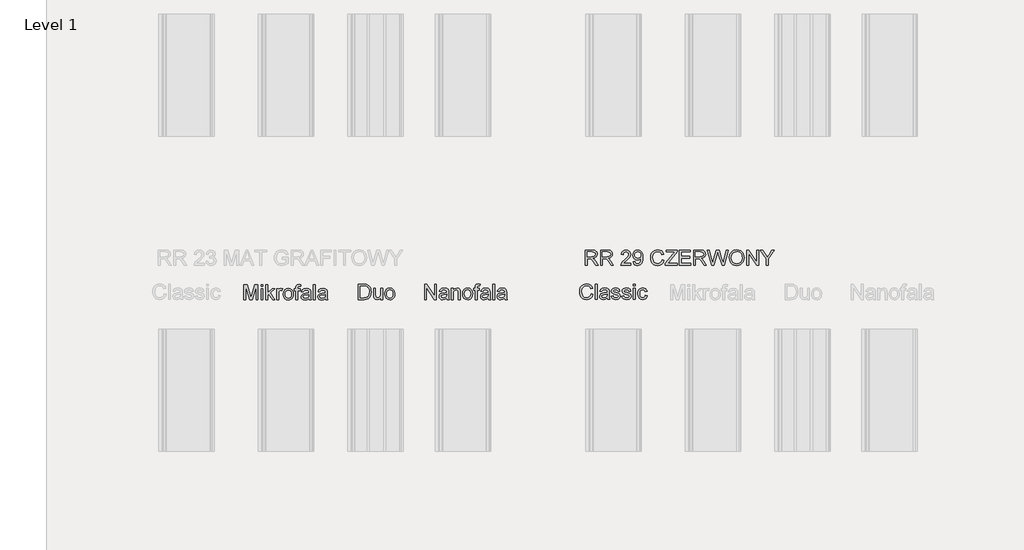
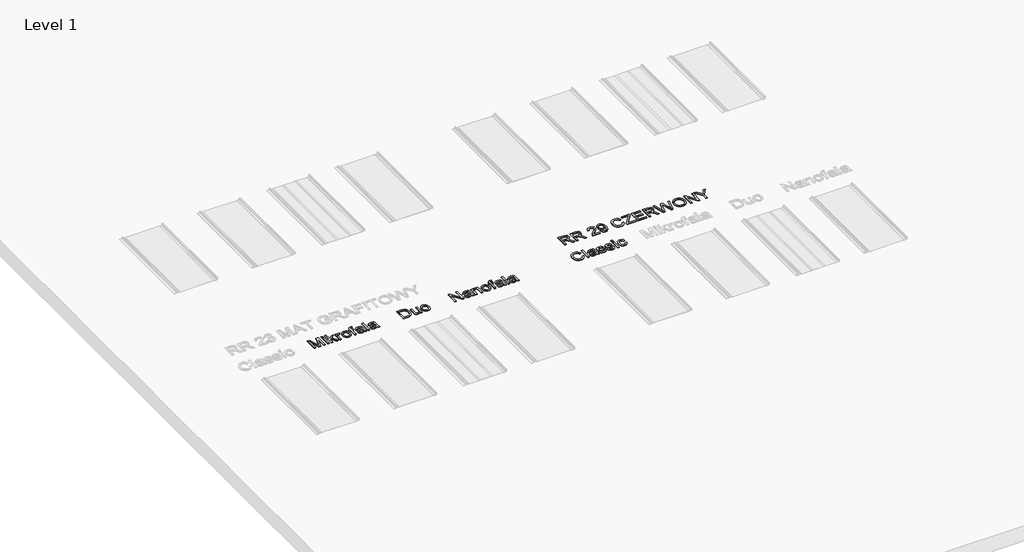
# One storey, part 10 of 22: 5 proxies.
"""IFC4 building model written with IfcOpenShell, lengths in millimetres."""

from ifc_helpers import new_model, si_unit, frame, origin, place, context, project, spatial, polyline, outline, extrude, element, save

model = new_model("IFC4")

# Units and contexts
model_context = context("Model", 3, world=origin())
ifc_project = project(units=[si_unit("LENGTHUNIT", "METRE", prefix="MILLI")], contexts=[model_context])

# Site, building, storey
site = spatial("IfcSite", under=ifc_project)
building = spatial("IfcBuilding", under=site)
storey = spatial("IfcBuildingStorey", under=building, Name="Level 1", Elevation=0.0)

# Proxies
placement = place(None, origin())
element("IfcBuildingElementProxy", 1, Name="150", ObjectType="150", at=placement, inside=storey, context=model_context, shape_type="SweptSolid", body=[
    extrude(outline(polyline([(-7895.6654959, -5075.281387), (-7895.6654959, -4924.5969218), (-7863.3654568, -4924.5969218), (-7832.4633692, -5030.8044538), (-7826.2093753, -5052.9877381), (-7819.4771347, -5028.9650438), (-7789.1636583, -4924.5969218), (-7756.7532546, -4924.5969218), (-7756.7532546, -5075.281387), (-7775.5888127, -5075.281387), (-7775.5888127, -4943.4324799), (-7813.44387, -5075.281387), (-7838.9380923, -5075.281387), (-7876.8299378, -4943.4324799), (-7876.8299378, -5075.281387), (-7895.6654959, -5075.281387)])), frame((0.0, 0.0, 600.0), z_axis=(0.0, 0.0, 1.0), x_axis=(1.0, 0.0, 0.0)), (0.0, 0.0, 1.0), 10.0),
    extrude(outline(polyline([(-7726.1454726, -4943.4324799), (-7726.1454726, -4924.5969218), (-7707.3099144, -4924.5969218), (-7707.3099144, -4943.4324799), (-7726.1454726, -4943.4324799)])), frame((0.0, 0.0, 600.0), z_axis=(0.0, 0.0, 1.0), x_axis=(1.0, 0.0, 0.0)), (0.0, 0.0, 1.0), 10.0),
    extrude(outline(polyline([(-7726.1454726, -5075.281387), (-7726.1454726, -4964.6224829), (-7707.3099144, -4964.6224829), (-7707.3099144, -5075.281387), (-7726.1454726, -5075.281387)])), frame((0.0, 0.0, 600.0), z_axis=(0.0, 0.0, 1.0), x_axis=(1.0, 0.0, 0.0)), (0.0, 0.0, 1.0), 10.0),
    extrude(outline(polyline([(-7679.0565772, -5075.281387), (-7679.0565772, -4924.5969218), (-7660.221019, -4924.5969218), (-7660.221019, -5005.5677489), (-7617.988166, -4964.6224829), (-7591.9421207, -4964.6224829), (-7634.7267968, -5006.0827837), (-7589.587676, -5075.281387), (-7611.5870193, -5075.281387), (-7648.228066, -5019.1793827), (-7660.221019, -5030.841242), (-7660.221019, -5075.281387), (-7679.0565772, -5075.281387)])), frame((0.0, 0.0, 600.0), z_axis=(0.0, 0.0, 1.0), x_axis=(1.0, 0.0, 0.0)), (0.0, 0.0, 1.0), 10.0),
    extrude(outline(polyline([(-7573.1065626, -5075.281387), (-7573.1065626, -4964.6224829), (-7556.6254492, -4964.6224829), (-7556.6254492, -4980.9932316), (-7544.9268017, -4965.9100698), (-7533.1545779, -4962.2680381), (-7514.2454433, -4968.0805736), (-7520.5362255, -4984.9663572), (-7533.7799773, -4981.1035962), (-7544.4301611, -4984.8192044), (-7551.2175839, -4995.1199003), (-7554.2710044, -5017.1192436), (-7554.2710044, -5075.281387), (-7573.1065626, -5075.281387)])), frame((0.0, 0.0, 600.0), z_axis=(0.0, 0.0, 1.0), x_axis=(1.0, 0.0, 0.0)), (0.0, 0.0, 1.0), 10.0),
    extrude(outline(polyline([(-7507.182109, -5019.9519349), (-7503.1078159, -4993.2712932), (-7490.8849367, -4974.5185085), (-7475.7833808, -4965.3306557), (-7457.7019807, -4962.2680381), (-7437.9145279, -4965.9974418), (-7422.1093977, -4977.185653), (-7411.748921, -4994.9497548), (-7408.2954287, -5018.4068306), (-7409.822139, -5037.4355268), (-7414.4022699, -5051.9208803), (-7421.902464, -5062.7688007), (-7432.1893643, -5070.8851972), (-7444.4076451, -5075.9481731), (-7457.7019807, -5077.6358318), (-7477.7285568, -5073.9202236), (-7493.5152929, -5062.7733992), (-7503.765405, -5044.6368168), (-7507.182109, -5019.9519349)]), holes=[polyline([(-7488.3465509, -5019.9151467), (-7486.1668501, -5036.9618787), (-7479.6277476, -5049.1065831), (-7469.7869042, -5056.376851), (-7457.7019807, -5058.8002736), (-7445.6722394, -5056.3630554), (-7435.8497902, -5049.0514008), (-7429.3106877, -5036.745748), (-7427.1309869, -5019.3265355), (-7429.3244833, -5002.7764443), (-7435.9049725, -4990.7972868), (-7445.7412173, -4983.5270189), (-7457.7019807, -4981.1035962), (-7469.7869042, -4983.5178218), (-7479.6277476, -4990.7604986), (-7486.1668501, -5002.8776118), (-7488.3465509, -5019.9151467)])]), frame((0.0, 0.0, 600.0), z_axis=(0.0, 0.0, 1.0), x_axis=(1.0, 0.0, 0.0)), (0.0, 0.0, 1.0), 10.0),
    extrude(outline(polyline([(-7382.3965363, -5075.281387), (-7382.3965363, -4983.458041), (-7398.8776497, -4983.458041), (-7398.8776497, -4964.6224829), (-7382.3965363, -4964.6224829), (-7382.3965363, -4953.4756584), (-7380.4099735, -4937.7670972), (-7370.7714652, -4926.5466964), (-7351.7887543, -4922.242477), (-7334.6086651, -4924.3026162), (-7337.3677801, -4941.960952), (-7348.2202989, -4941.0780352), (-7360.0844933, -4944.2050321), (-7363.5609781, -4955.8668914), (-7363.5609781, -4964.6224829), (-7342.3709752, -4964.6224829), (-7342.3709752, -4983.458041), (-7363.5609781, -4983.458041), (-7363.5609781, -5075.281387), (-7382.3965363, -5075.281387)])), frame((0.0, 0.0, 600.0), z_axis=(0.0, 0.0, 1.0), x_axis=(1.0, 0.0, 0.0)), (0.0, 0.0, 1.0), 10.0),
    extrude(outline(polyline([(-7255.2565187, -5061.1547184), (-7273.5218598, -5073.9202236), (-7293.7001872, -5077.6358318), (-7309.4409381, -5075.4009487), (-7321.0522136, -5068.6962993), (-7328.2121169, -5058.5151651), (-7330.5987514, -5045.8508274), (-7326.9935078, -5030.9516066), (-7317.5205464, -5020.1358759), (-7304.3319769, -5013.9554584), (-7288.0348045, -5011.1227671), (-7255.3668833, -5004.6480439), (-7255.2565187, -5000.4541892), (-7256.5533028, -4992.0480856), (-7260.4436549, -4986.5482498), (-7269.1440641, -4982.4647596), (-7281.2657758, -4981.1035962), (-7300.3220632, -4984.7272339), (-7309.4087484, -4997.5847096), (-7328.2443066, -4995.2302649), (-7320.0957204, -4976.8361651), (-7303.6881834, -4966.0572226), (-7278.8377546, -4962.2680381), (-7256.0106768, -4965.6157643), (-7243.1164129, -4974.0218678), (-7237.3406656, -4986.8057672), (-7236.4209606, -5003.2868806), (-7236.4209606, -5026.7209636), (-7235.4644674, -5059.4440671), (-7231.7120711, -5075.281387), (-7250.5476292, -5075.281387), (-7255.2565187, -5061.1547184)]), holes=[polyline([(-7255.2565187, -5023.4836021), (-7285.6435715, -5029.2593494), (-7301.8487734, -5032.31277), (-7309.1880192, -5037.2791769), (-7311.7631932, -5044.5264522), (-7306.1529928, -5054.7167835), (-7289.6902735, -5058.8002736), (-7270.6339861, -5054.2937192), (-7258.3467275, -5043.386018), (-7255.3668833, -5028.817891), (-7255.2565187, -5023.4836021)])]), frame((0.0, 0.0, 600.0), z_axis=(0.0, 0.0, 1.0), x_axis=(1.0, 0.0, 0.0)), (0.0, 0.0, 1.0), 10.0),
    extrude(outline(polyline([(-7210.5220681, -5075.281387), (-7210.5220681, -4924.5969218), (-7191.68651, -4924.5969218), (-7191.68651, -5075.281387), (-7210.5220681, -5075.281387)])), frame((0.0, 0.0, 600.0), z_axis=(0.0, 0.0, 1.0), x_axis=(1.0, 0.0, 0.0)), (0.0, 0.0, 1.0), 10.0),
    extrude(outline(polyline([(-7092.7998297, -5061.1547184), (-7111.0651707, -5073.9202236), (-7131.2434982, -5077.6358318), (-7146.984249, -5075.4009487), (-7158.5955245, -5068.6962993), (-7165.7554278, -5058.5151651), (-7168.1420623, -5045.8508274), (-7164.5368187, -5030.9516066), (-7155.0638574, -5020.1358759), (-7141.8752878, -5013.9554584), (-7125.5781154, -5011.1227671), (-7092.9101943, -5004.6480439), (-7092.7998297, -5000.4541892), (-7094.0966137, -4992.0480856), (-7097.9869658, -4986.5482498), (-7106.687375, -4982.4647596), (-7118.8090867, -4981.1035962), (-7137.8653741, -4984.7272339), (-7146.9520594, -4997.5847096), (-7165.7876175, -4995.2302649), (-7157.6390313, -4976.8361651), (-7141.2314943, -4966.0572226), (-7116.3810656, -4962.2680381), (-7093.5539878, -4965.6157643), (-7080.6597238, -4974.0218678), (-7074.8839765, -4986.8057672), (-7073.9642715, -5003.2868806), (-7073.9642715, -5026.7209636), (-7073.0077783, -5059.4440671), (-7069.255382, -5075.281387), (-7088.0909401, -5075.281387), (-7092.7998297, -5061.1547184)]), holes=[polyline([(-7092.7998297, -5023.4836021), (-7123.1868825, -5029.2593494), (-7139.3920844, -5032.31277), (-7146.7313302, -5037.2791769), (-7149.3065041, -5044.5264522), (-7143.6963037, -5054.7167835), (-7127.2335844, -5058.8002736), (-7108.1772971, -5054.2937192), (-7095.8900384, -5043.386018), (-7092.9101943, -5028.817891), (-7092.7998297, -5023.4836021)])]), frame((0.0, 0.0, 600.0), z_axis=(0.0, 0.0, 1.0), x_axis=(1.0, 0.0, 0.0)), (0.0, 0.0, 1.0), 10.0),
])
element("IfcBuildingElementProxy", 2, Name="150", ObjectType="150", at=placement, inside=storey, context=model_context, shape_type="SweptSolid", body=[
    extrude(outline(polyline([(-6767.5807075, -5072.1592468), (-6767.5807075, -4921.4747816), (-6715.5989816, -4921.4747816), (-6688.7068077, -4923.6452853), (-6666.5603116, -4934.4242278), (-6656.1400541, -4945.902146), (-6648.7180349, -4960.1759675), (-6644.2758598, -4976.9697805), (-6642.7951347, -4996.0076738), (-6646.8050485, -5026.4131207), (-6657.1057443, -5048.3572817), (-6670.864531, -5062.0240978), (-6688.8723546, -5069.5840728), (-6713.097384, -5072.1592468), (-6767.5807075, -5072.1592468)]), holes=[polyline([(-6748.7451493, -5053.3236886), (-6715.4150406, -5053.3236886), (-6691.1716171, -5050.6013619), (-6677.1921013, -5042.9126282), (-6665.7325771, -5024.2058287), (-6661.6306929, -4995.7133682), (-6663.6402483, -4975.1855529), (-6669.6689145, -4960.0288147), (-6678.5762573, -4949.6177542), (-6689.2218425, -4943.3269721), (-6715.9300754, -4940.3103397), (-6748.7451493, -4940.3103397), (-6748.7451493, -5053.3236886)])]), frame((0.0, 0.0, 600.0), z_axis=(0.0, 0.0, 1.0), x_axis=(1.0, 0.0, 0.0)), (0.0, 0.0, 1.0), 10.0),
    extrude(outline(polyline([(-6548.617344, -5072.1592468), (-6548.617344, -5053.1397476), (-6563.369412, -5069.1702056), (-6582.6096403, -5074.5136916), (-6600.3231584, -5070.7612952), (-6612.5368406, -5061.3435161), (-6618.1470411, -5047.4743649), (-6619.250687, -5029.9631819), (-6619.250687, -4961.5003426), (-6600.4151289, -4961.5003426), (-6600.4151289, -5021.0972259), (-6599.2746947, -5040.300666), (-6591.8250843, -5051.5762492), (-6577.7903862, -5055.6781334), (-6562.0634309, -5051.4842787), (-6551.6707645, -5040.0615427), (-6548.617344, -5019.0738749), (-6548.617344, -4961.5003426), (-6529.7817858, -4961.5003426), (-6529.7817858, -5072.1592468), (-6548.617344, -5072.1592468)])), frame((0.0, 0.0, 600.0), z_axis=(0.0, 0.0, 1.0), x_axis=(1.0, 0.0, 0.0)), (0.0, 0.0, 1.0), 10.0),
    extrude(outline(polyline([(-6508.5917829, -5016.8297947), (-6504.5174898, -4990.149153), (-6492.2946105, -4971.3963683), (-6477.1930546, -4962.2085155), (-6459.1116545, -4959.1458979), (-6439.3242017, -4962.8753016), (-6423.5190715, -4974.0635128), (-6413.1585948, -4991.8276146), (-6409.7051026, -5015.2846903), (-6411.2318129, -5034.3133865), (-6415.8119437, -5048.7987401), (-6423.3121379, -5059.6466604), (-6433.5990382, -5067.7630569), (-6445.8173189, -5072.8260329), (-6459.1116545, -5074.5136916), (-6479.1382307, -5070.7980834), (-6494.9249668, -5059.651259), (-6505.1750789, -5041.5146766), (-6508.5917829, -5016.8297947)]), holes=[polyline([(-6489.7562247, -5016.7930065), (-6487.5765239, -5033.8397385), (-6481.0374215, -5045.9844428), (-6471.1965781, -5053.2547108), (-6459.1116545, -5055.6781334), (-6447.0819133, -5053.2409152), (-6437.259464, -5045.9292605), (-6430.7203616, -5033.6236078), (-6428.5406607, -5016.2043953), (-6430.7341571, -4999.6543041), (-6437.3146463, -4987.6751466), (-6447.1508912, -4980.4048787), (-6459.1116545, -4977.981456), (-6471.1965781, -4980.3956816), (-6481.0374215, -4987.6383584), (-6487.5765239, -4999.7554716), (-6489.7562247, -5016.7930065)])]), frame((0.0, 0.0, 600.0), z_axis=(0.0, 0.0, 1.0), x_axis=(1.0, 0.0, 0.0)), (0.0, 0.0, 1.0), 10.0),
])
element("IfcBuildingElementProxy", 3, Name="150", ObjectType="150", at=placement, inside=storey, context=model_context, shape_type="SweptSolid", body=[
    extrude(outline(polyline([(-4479.0085992, -5017.1818641), (-4460.1730411, -5022.0379064), (-4468.8642532, -5043.986666), (-4482.5034782, -5060.0217224), (-4500.4193314, -5069.8303761), (-4521.9404281, -5073.0999274), (-4543.7880201, -5070.6259209), (-4561.1382547, -5063.2039017), (-4574.4371888, -5051.091387), (-4584.1308794, -5034.5458943), (-4590.049181, -5015.0941338), (-4592.0219482, -4994.2628158), (-4589.7916636, -4972.2910636), (-4583.1008098, -4953.3175497), (-4572.2988747, -4937.9446809), (-4557.7353462, -4926.7748638), (-4540.4632865, -4919.9736454), (-4521.5357579, -4917.7065726), (-4500.8837824, -4920.6404315), (-4483.8094593, -4929.4420082), (-4470.8462175, -4943.5686769), (-4462.5274859, -4962.4778114), (-4481.363044, -4966.9659718), (-4487.8929494, -4953.2301778), (-4496.8140878, -4943.8078002), (-4508.2368238, -4938.3585481), (-4522.2715219, -4936.5421308), (-4538.4491326, -4938.5562847), (-4551.7388697, -4944.5987464), (-4561.8234349, -4954.0349196), (-4568.38553, -4966.2302078), (-4573.18639, -4994.2260276), (-4571.7654458, -5011.626846), (-4567.5026132, -5026.6732196), (-4560.2369438, -5038.7903328), (-4549.8074892, -5047.40337), (-4537.3040999, -5052.5491194), (-4523.8166263, -5054.2643692), (-4508.0942695, -5051.9283185), (-4494.9930719, -5044.9201665), (-4485.1016448, -5033.3134896), (-4479.0085992, -5017.1818641)])), frame((0.0, 0.0, 600.0), z_axis=(0.0, 0.0, 1.0), x_axis=(1.0, 0.0, 0.0)), (0.0, 0.0, 1.0), 10.0),
    extrude(outline(polyline([(-4436.6285934, -5070.7454826), (-4436.6285934, -4920.0610174), (-4417.7930352, -4920.0610174), (-4417.7930352, -5070.7454826), (-4436.6285934, -5070.7454826)])), frame((0.0, 0.0, 600.0), z_axis=(0.0, 0.0, 1.0), x_axis=(1.0, 0.0, 0.0)), (0.0, 0.0, 1.0), 10.0),
    extrude(outline(polyline([(-4318.9063549, -5056.618814), (-4337.171696, -5069.3843192), (-4357.3500234, -5073.0999274), (-4373.0907743, -5070.8650442), (-4384.7020498, -5064.1603949), (-4391.8619531, -5053.9792607), (-4394.2485875, -5041.314923), (-4390.643344, -5026.4157022), (-4381.1703826, -5015.5999715), (-4367.9818131, -5009.419554), (-4351.6846407, -5006.5868626), (-4319.0167195, -5000.1121395), (-4318.9063549, -4995.9182848), (-4320.203139, -4987.5121812), (-4324.0934911, -4982.0123454), (-4332.7939003, -4977.9288552), (-4344.915612, -4976.5676918), (-4363.9718993, -4980.1913295), (-4373.0585846, -4993.0488052), (-4391.8941428, -4990.6943604), (-4383.7455566, -4972.3002607), (-4367.3380196, -4961.5213182), (-4342.4875908, -4957.7321337), (-4319.660513, -4961.0798598), (-4306.7662491, -4969.4859634), (-4300.9905018, -4982.2698628), (-4300.0707968, -4998.7509761), (-4300.0707968, -5022.1850592), (-4299.1143036, -5054.9081627), (-4295.3619072, -5070.7454826), (-4314.1974654, -5070.7454826), (-4318.9063549, -5056.618814)]), holes=[polyline([(-4318.9063549, -5018.9476977), (-4349.2934077, -5024.723445), (-4365.4986096, -5027.7768656), (-4372.8378554, -5032.7432725), (-4375.4130294, -5039.9905478), (-4369.802829, -5050.1808791), (-4353.3401097, -5054.2643692), (-4334.2838223, -5049.7578148), (-4321.9965637, -5038.8501136), (-4319.0167195, -5024.2819866), (-4318.9063549, -5018.9476977)])]), frame((0.0, 0.0, 600.0), z_axis=(0.0, 0.0, 1.0), x_axis=(1.0, 0.0, 0.0)), (0.0, 0.0, 1.0), 10.0),
    extrude(outline(polyline([(-4281.2352386, -5037.7832558), (-4262.3996805, -5035.4288111), (-4259.4290334, -5043.4854268), (-4253.6808772, -5049.4083269), (-4233.7048849, -5054.2643692), (-4214.5014447, -5049.8129971), (-4208.2474508, -5039.3651484), (-4209.8201463, -5034.5642884), (-4214.5382329, -5030.9038625), (-4233.9256141, -5025.5327854), (-4262.2893159, -5016.3173414), (-4274.668545, -5005.5567931), (-4278.8807939, -4990.3632666), (-4275.4962795, -4976.3285685), (-4266.2624414, -4965.6048084), (-4254.2878825, -4960.0313961), (-4238.0826806, -4957.7321337), (-4215.1636323, -4961.4293477), (-4200.5955053, -4971.435738), (-4194.1207822, -4988.3399157), (-4212.9563403, -4990.6943604), (-4220.0380687, -4980.3016941), (-4236.6111526, -4976.5676918), (-4254.6373704, -4980.1361472), (-4260.0452357, -4988.4502803), (-4257.8011555, -4993.931722), (-4250.7746094, -4998.0887885), (-4234.5510134, -5002.0987023), (-4206.9046815, -5010.9646584), (-4194.0655999, -5021.0078368), (-4189.4118926, -5037.3785856), (-4194.8749403, -5055.4048034), (-4210.6386838, -5068.4830083), (-4233.9624023, -5073.0999274), (-4252.9543103, -5070.8742413), (-4266.8142644, -5064.1971831), (-4276.0664966, -5053.1423291), (-4281.2352386, -5037.7832558)])), frame((0.0, 0.0, 600.0), z_axis=(0.0, 0.0, 1.0), x_axis=(1.0, 0.0, 0.0)), (0.0, 0.0, 1.0), 10.0),
    extrude(outline(polyline([(-4175.285224, -5037.7832558), (-4156.4496659, -5035.4288111), (-4153.4790188, -5043.4854268), (-4147.7308626, -5049.4083269), (-4127.7548702, -5054.2643692), (-4108.5514301, -5049.8129971), (-4102.2974362, -5039.3651484), (-4103.8701317, -5034.5642884), (-4108.5882183, -5030.9038625), (-4127.9755994, -5025.5327854), (-4156.3393013, -5016.3173414), (-4168.7185304, -5005.5567931), (-4172.9307793, -4990.3632666), (-4169.5462649, -4976.3285685), (-4160.3124268, -4965.6048084), (-4148.3378679, -4960.0313961), (-4132.132666, -4957.7321337), (-4109.2136177, -4961.4293477), (-4094.6454907, -4971.435738), (-4088.1707676, -4988.3399157), (-4107.0063257, -4990.6943604), (-4114.0880541, -4980.3016941), (-4130.661138, -4976.5676918), (-4148.6873558, -4980.1361472), (-4154.0952211, -4988.4502803), (-4151.8511409, -4993.931722), (-4144.8245948, -4998.0887885), (-4128.6009988, -5002.0987023), (-4100.9546669, -5010.9646584), (-4088.1155853, -5021.0078368), (-4083.461878, -5037.3785856), (-4088.9249257, -5055.4048034), (-4104.6886691, -5068.4830083), (-4128.0123876, -5073.0999274), (-4147.0042956, -5070.8742413), (-4160.8642498, -5064.1971831), (-4170.116482, -5053.1423291), (-4175.285224, -5037.7832558)])), frame((0.0, 0.0, 600.0), z_axis=(0.0, 0.0, 1.0), x_axis=(1.0, 0.0, 0.0)), (0.0, 0.0, 1.0), 10.0),
    extrude(outline(polyline([(-4062.2718751, -4938.8965755), (-4062.2718751, -4920.0610174), (-4043.4363169, -4920.0610174), (-4043.4363169, -4938.8965755), (-4062.2718751, -4938.8965755)])), frame((0.0, 0.0, 600.0), z_axis=(0.0, 0.0, 1.0), x_axis=(1.0, 0.0, 0.0)), (0.0, 0.0, 1.0), 10.0),
    extrude(outline(polyline([(-4062.2718751, -5070.7454826), (-4062.2718751, -4960.0865784), (-4043.4363169, -4960.0865784), (-4043.4363169, -5070.7454826), (-4062.2718751, -5070.7454826)])), frame((0.0, 0.0, 600.0), z_axis=(0.0, 0.0, 1.0), x_axis=(1.0, 0.0, 0.0)), (0.0, 0.0, 1.0), 10.0),
    extrude(outline(polyline([(-3944.5496366, -5030.7199215), (-3925.7140785, -5033.0743663), (-3930.965594, -5049.8267926), (-3940.8340285, -5062.4865318), (-3954.39048, -5070.4465785), (-3970.7060465, -5073.0999274), (-3990.7418197, -5069.3981148), (-4006.4089941, -5058.2926771), (-4016.5211505, -5040.2710578), (-4019.8918693, -5015.8207007), (-4018.452531, -4999.0590773), (-4014.134516, -4984.532337), (-4006.8688466, -4972.8014999), (-3996.5865449, -4964.427586), (-3984.2854906, -4959.4059968), (-3970.9635639, -4957.7321337), (-3955.0480691, -4960.0313961), (-3942.3239506, -4966.9291836), (-3933.1958786, -4978.0576139), (-3928.0685233, -4993.0488052), (-3946.9040814, -4995.40325), (-3955.6412788, -4981.2949755), (-3970.8164111, -4976.5676918), (-3982.9887066, -4978.8945454), (-3992.6502075, -4985.8751063), (-3998.9547852, -4997.8864535), (-4001.0563111, -5015.3056659), (-3999.0007705, -5032.9594032), (-3992.8341485, -5045.012137), (-3983.3473916, -5051.9513112), (-3971.3314459, -5054.2643692), (-3961.5779745, -5052.8204324), (-3953.5811396, -5048.4886219), (-3947.7640056, -5041.1585731), (-3944.5496366, -5030.7199215)])), frame((0.0, 0.0, 600.0), z_axis=(0.0, 0.0, 1.0), x_axis=(1.0, 0.0, 0.0)), (0.0, 0.0, 1.0), 10.0),
])
element("IfcBuildingElementProxy", 4, Name="150", ObjectType="150", at=placement, inside=storey, context=model_context, shape_type="SweptSolid", body=[
    extrude(outline(polyline([(-6117.5806572, -5072.1592468), (-6117.5806572, -4921.4747816), (-6097.4207239, -4921.4747816), (-6018.6939769, -5040.852489), (-6018.6939769, -4921.4747816), (-5999.8584188, -4921.4747816), (-5999.8584188, -5072.1592468), (-6020.0183521, -5072.1592468), (-6098.7450991, -4952.7447512), (-6098.7450991, -5072.1592468), (-6117.5806572, -5072.1592468)])), frame((0.0, 0.0, 600.0), z_axis=(0.0, 0.0, 1.0), x_axis=(1.0, 0.0, 0.0)), (0.0, 0.0, 1.0), 10.0),
    extrude(outline(polyline([(-5898.6172937, -5058.0325782), (-5916.8826347, -5070.7980834), (-5937.0609622, -5074.5136916), (-5952.801713, -5072.2788084), (-5964.4129885, -5065.5741591), (-5971.5728919, -5055.3930249), (-5973.9595263, -5042.7286872), (-5970.3542827, -5027.8294664), (-5960.8813214, -5017.0137357), (-5947.6927518, -5010.8333182), (-5931.3955795, -5008.0006268), (-5898.7276583, -5001.5259037), (-5898.6172937, -4997.332049), (-5899.9140777, -4988.9259454), (-5903.8044298, -4983.4261096), (-5912.504839, -4979.3426194), (-5924.6265507, -4977.981456), (-5943.6828381, -4981.6050937), (-5952.7695234, -4994.4625694), (-5971.6050815, -4992.1081246), (-5963.4564953, -4973.7140249), (-5947.0489583, -4962.9350824), (-5922.1985296, -4959.1458979), (-5899.3714518, -4962.493624), (-5886.4771878, -4970.8997276), (-5880.7014405, -4983.683627), (-5879.7817355, -5000.1647403), (-5879.7817355, -5023.5988234), (-5878.8252423, -5056.3219269), (-5875.072846, -5072.1592468), (-5893.9084041, -5072.1592468), (-5898.6172937, -5058.0325782)]), holes=[polyline([(-5898.6172937, -5020.3614619), (-5929.0043465, -5026.1372092), (-5945.2095484, -5029.1906298), (-5952.5487942, -5034.1570367), (-5955.1239681, -5041.404312), (-5949.5137677, -5051.5946433), (-5933.0510484, -5055.6781334), (-5913.9947611, -5051.171579), (-5901.7075024, -5040.2638778), (-5898.7276583, -5025.6957508), (-5898.6172937, -5020.3614619)])]), frame((0.0, 0.0, 600.0), z_axis=(0.0, 0.0, 1.0), x_axis=(1.0, 0.0, 0.0)), (0.0, 0.0, 1.0), 10.0),
    extrude(outline(polyline([(-5853.8828431, -5072.1592468), (-5853.8828431, -4961.5003426), (-5835.0472849, -4961.5003426), (-5835.0472849, -4976.9513864), (-5820.6447048, -4963.59727), (-5800.9814122, -4959.1458979), (-5783.1943177, -4962.7327473), (-5771.0542119, -4972.1505264), (-5765.4072232, -4986.0012835), (-5764.4139418, -5004.2114423), (-5764.4139418, -5072.1592468), (-5783.2495, -5072.1592468), (-5783.2495, -5006.749828), (-5785.4200038, -4990.0847737), (-5793.0903434, -4981.2739999), (-5806.0213955, -4977.981456), (-5817.0532568, -4979.8300631), (-5826.4572403, -4985.3758841), (-5832.8997738, -4996.0904472), (-5835.0472849, -5013.4452804), (-5835.0472849, -5072.1592468), (-5853.8828431, -5072.1592468)])), frame((0.0, 0.0, 600.0), z_axis=(0.0, 0.0, 1.0), x_axis=(1.0, 0.0, 0.0)), (0.0, 0.0, 1.0), 10.0),
    extrude(outline(polyline([(-5743.2239389, -5016.8297947), (-5739.1496458, -4990.149153), (-5726.9267665, -4971.3963683), (-5711.8252106, -4962.2085155), (-5693.7438106, -4959.1458979), (-5673.9563578, -4962.8753016), (-5658.1512275, -4974.0635128), (-5647.7907508, -4991.8276146), (-5644.3372586, -5015.2846903), (-5645.8639689, -5034.3133865), (-5650.4440997, -5048.7987401), (-5657.9442939, -5059.6466604), (-5668.2311942, -5067.7630569), (-5680.449475, -5072.8260329), (-5693.7438106, -5074.5136916), (-5713.7703867, -5070.7980834), (-5729.5571228, -5059.651259), (-5739.8072349, -5041.5146766), (-5743.2239389, -5016.8297947)]), holes=[polyline([(-5724.3883808, -5016.7930065), (-5722.2086799, -5033.8397385), (-5715.6695775, -5045.9844428), (-5705.8287341, -5053.2547108), (-5693.7438106, -5055.6781334), (-5681.7140693, -5053.2409152), (-5671.8916201, -5045.9292605), (-5665.3525176, -5033.6236078), (-5663.1728168, -5016.2043953), (-5665.3663132, -4999.6543041), (-5671.9468024, -4987.6751466), (-5681.7830472, -4980.4048787), (-5693.7438106, -4977.981456), (-5705.8287341, -4980.3956816), (-5715.6695775, -4987.6383584), (-5722.2086799, -4999.7554716), (-5724.3883808, -5016.7930065)])]), frame((0.0, 0.0, 600.0), z_axis=(0.0, 0.0, 1.0), x_axis=(1.0, 0.0, 0.0)), (0.0, 0.0, 1.0), 10.0),
    extrude(outline(polyline([(-5618.4383662, -5072.1592468), (-5618.4383662, -4980.3359008), (-5634.9194795, -4980.3359008), (-5634.9194795, -4961.5003426), (-5618.4383662, -4961.5003426), (-5618.4383662, -4950.3535182), (-5616.4518034, -4934.644957), (-5606.8132951, -4923.4245561), (-5587.8305842, -4919.1203368), (-5570.650495, -4921.180476), (-5573.4096099, -4938.8388117), (-5584.2621288, -4937.955895), (-5596.1263231, -4941.0828919), (-5599.602808, -4952.7447512), (-5599.602808, -4961.5003426), (-5578.4128051, -4961.5003426), (-5578.4128051, -4980.3359008), (-5599.602808, -4980.3359008), (-5599.602808, -5072.1592468), (-5618.4383662, -5072.1592468)])), frame((0.0, 0.0, 600.0), z_axis=(0.0, 0.0, 1.0), x_axis=(1.0, 0.0, 0.0)), (0.0, 0.0, 1.0), 10.0),
    extrude(outline(polyline([(-5491.2983486, -5058.0325782), (-5509.5636897, -5070.7980834), (-5529.7420171, -5074.5136916), (-5545.482768, -5072.2788084), (-5557.0940435, -5065.5741591), (-5564.2539468, -5055.3930249), (-5566.6405812, -5042.7286872), (-5563.0353377, -5027.8294664), (-5553.5623763, -5017.0137357), (-5540.3738068, -5010.8333182), (-5524.0766344, -5008.0006268), (-5491.4087132, -5001.5259037), (-5491.2983486, -4997.332049), (-5492.5951327, -4988.9259454), (-5496.4854848, -4983.4261096), (-5505.1858939, -4979.3426194), (-5517.3076057, -4977.981456), (-5536.363893, -4981.6050937), (-5545.4505783, -4994.4625694), (-5564.2861365, -4992.1081246), (-5556.1375503, -4973.7140249), (-5539.7300133, -4962.9350824), (-5514.8795845, -4959.1458979), (-5492.0525067, -4962.493624), (-5479.1582428, -4970.8997276), (-5473.3824955, -4983.683627), (-5472.4627905, -5000.1647403), (-5472.4627905, -5023.5988234), (-5471.5062973, -5056.3219269), (-5467.7539009, -5072.1592468), (-5486.5894591, -5072.1592468), (-5491.2983486, -5058.0325782)]), holes=[polyline([(-5491.2983486, -5020.3614619), (-5521.6854014, -5026.1372092), (-5537.8906033, -5029.1906298), (-5545.2298491, -5034.1570367), (-5547.8050231, -5041.404312), (-5542.1948227, -5051.5946433), (-5525.7321034, -5055.6781334), (-5506.675816, -5051.171579), (-5494.3885574, -5040.2638778), (-5491.4087132, -5025.6957508), (-5491.2983486, -5020.3614619)])]), frame((0.0, 0.0, 600.0), z_axis=(0.0, 0.0, 1.0), x_axis=(1.0, 0.0, 0.0)), (0.0, 0.0, 1.0), 10.0),
    extrude(outline(polyline([(-5446.563898, -5072.1592468), (-5446.563898, -4921.4747816), (-5427.7283399, -4921.4747816), (-5427.7283399, -5072.1592468), (-5446.563898, -5072.1592468)])), frame((0.0, 0.0, 600.0), z_axis=(0.0, 0.0, 1.0), x_axis=(1.0, 0.0, 0.0)), (0.0, 0.0, 1.0), 10.0),
    extrude(outline(polyline([(-5328.8416596, -5058.0325782), (-5347.1070006, -5070.7980834), (-5367.285328, -5074.5136916), (-5383.0260789, -5072.2788084), (-5394.6373544, -5065.5741591), (-5401.7972577, -5055.3930249), (-5404.1838922, -5042.7286872), (-5400.5786486, -5027.8294664), (-5391.1056872, -5017.0137357), (-5377.9171177, -5010.8333182), (-5361.6199453, -5008.0006268), (-5328.9520242, -5001.5259037), (-5328.8416596, -4997.332049), (-5330.1384436, -4988.9259454), (-5334.0287957, -4983.4261096), (-5342.7292049, -4979.3426194), (-5354.8509166, -4977.981456), (-5373.907204, -4981.6050937), (-5382.9938892, -4994.4625694), (-5401.8294474, -4992.1081246), (-5393.6808612, -4973.7140249), (-5377.2733242, -4962.9350824), (-5352.4228954, -4959.1458979), (-5329.5958176, -4962.493624), (-5316.7015537, -4970.8997276), (-5310.9258064, -4983.683627), (-5310.0061014, -5000.1647403), (-5310.0061014, -5023.5988234), (-5309.0496082, -5056.3219269), (-5305.2972119, -5072.1592468), (-5324.13277, -5072.1592468), (-5328.8416596, -5058.0325782)]), holes=[polyline([(-5328.8416596, -5020.3614619), (-5359.2287124, -5026.1372092), (-5375.4339142, -5029.1906298), (-5382.77316, -5034.1570367), (-5385.348334, -5041.404312), (-5379.7381336, -5051.5946433), (-5363.2754143, -5055.6781334), (-5344.219127, -5051.171579), (-5331.9318683, -5040.2638778), (-5328.9520242, -5025.6957508), (-5328.8416596, -5020.3614619)])]), frame((0.0, 0.0, 600.0), z_axis=(0.0, 0.0, 1.0), x_axis=(1.0, 0.0, 0.0)), (0.0, 0.0, 1.0), 10.0),
])
element("IfcBuildingElementProxy", 5, Name="150 Blue", ObjectType="150 Blue", at=placement, inside=storey, context=model_context, shape_type="SweptSolid", body=[
    extrude(outline(polyline([(-4536.4118342, -4735.6514112), (-4536.4118342, -4584.966946), (-4471.4806621, -4584.966946), (-4441.3327325, -4589.032042), (-4432.0529092, -4594.6606365), (-4424.8516192, -4603.416228), (-4420.2301016, -4614.2733454), (-4418.6895957, -4626.2065176), (-4421.2417771, -4641.0505561), (-4428.8983211, -4653.3562089), (-4441.8891541, -4662.3785148), (-4460.4442022, -4667.3725129), (-4449.7388361, -4675.4291286), (-4434.4717333, -4694.8165097), (-4409.3453931, -4735.6514112), (-4431.2343718, -4735.6514112), (-4450.8424821, -4704.4182298), (-4465.0059389, -4683.7432617), (-4474.9571469, -4673.9759947), (-4483.9150735, -4670.3891452), (-4494.8411687, -4669.7269577), (-4517.576276, -4669.7269577), (-4517.576276, -4735.6514112), (-4536.4118342, -4735.6514112)]), holes=[polyline([(-4517.576276, -4650.8913995), (-4475.4169994, -4650.8913995), (-4453.9142968, -4648.224255), (-4441.7006145, -4639.6893927), (-4437.5251539, -4626.9054934), (-4439.5163152, -4617.7176406), (-4445.4897991, -4610.3140154), (-4455.7675023, -4605.4303819), (-4470.6713217, -4603.8025041), (-4517.576276, -4603.8025041), (-4517.576276, -4650.8913995)])]), frame((0.0, 0.0, 600.0), z_axis=(0.0, 0.0, 1.0), x_axis=(1.0, 0.0, 0.0)), (0.0, 0.0, 1.0), 10.0),
    extrude(outline(polyline([(-4385.727369, -4735.6514112), (-4385.727369, -4584.966946), (-4320.7961968, -4584.966946), (-4290.6482673, -4589.032042), (-4281.368444, -4594.6606365), (-4274.1671539, -4603.416228), (-4269.5456364, -4614.2733454), (-4268.0051305, -4626.2065176), (-4270.5573119, -4641.0505561), (-4278.2138559, -4653.3562089), (-4291.2046888, -4662.3785148), (-4309.759737, -4667.3725129), (-4299.0543709, -4675.4291286), (-4283.7872681, -4694.8165097), (-4258.6609278, -4735.6514112), (-4280.5499066, -4735.6514112), (-4300.1580169, -4704.4182298), (-4314.3214737, -4683.7432617), (-4324.2726817, -4673.9759947), (-4333.2306083, -4670.3891452), (-4344.1567035, -4669.7269577), (-4366.8918108, -4669.7269577), (-4366.8918108, -4735.6514112), (-4385.727369, -4735.6514112)]), holes=[polyline([(-4366.8918108, -4650.8913995), (-4324.7325342, -4650.8913995), (-4303.2298316, -4648.224255), (-4291.0161493, -4639.6893927), (-4286.8406887, -4626.9054934), (-4288.83185, -4617.7176406), (-4294.8053339, -4610.3140154), (-4305.0830371, -4605.4303819), (-4319.9868564, -4603.8025041), (-4366.8918108, -4603.8025041), (-4366.8918108, -4650.8913995)])]), frame((0.0, 0.0, 600.0), z_axis=(0.0, 0.0, 1.0), x_axis=(1.0, 0.0, 0.0)), (0.0, 0.0, 1.0), 10.0),
    extrude(outline(polyline([(-4086.7128833, -4716.815853), (-4086.7128833, -4735.6514112), (-4185.5995636, -4735.6514112), (-4183.5762126, -4722.6651768), (-4172.1166885, -4702.6707903), (-4148.5170585, -4680.8369939), (-4116.0146842, -4649.4566597), (-4109.9308357, -4638.6409291), (-4107.9028862, -4628.119504), (-4109.8204711, -4618.6879293), (-4115.5732258, -4610.8474443), (-4124.4161893, -4605.5637392), (-4135.6044005, -4603.8025041), (-4147.3536317, -4605.5223524), (-4156.4817037, -4610.6818974), (-4162.3724141, -4618.8764689), (-4164.4095607, -4629.7013966), (-4183.2451188, -4627.3469518), (-4178.6787836, -4609.127596), (-4168.8057505, -4595.8194648), (-4154.1410545, -4587.6800757), (-4135.1997303, -4584.966946), (-4116.1204503, -4587.9835783), (-4101.4833454, -4597.0334754), (-4092.1713324, -4610.5531387), (-4089.0673281, -4626.9790698), (-4092.4150542, -4644.8397407), (-4103.5434846, -4663.3074168), (-4130.5276289, -4689.1143388), (-4152.1958784, -4707.2325271), (-4160.6939525, -4716.815853), (-4086.7128833, -4716.815853)])), frame((0.0, 0.0, 600.0), z_axis=(0.0, 0.0, 1.0), x_axis=(1.0, 0.0, 0.0)), (0.0, 0.0, 1.0), 10.0),
    extrude(outline(polyline([(-4065.5228804, -4697.9802949), (-4046.6873222, -4695.6258501), (-4043.4683548, -4706.3174206), (-4038.2260363, -4713.5968856), (-4031.0891256, -4717.7769447), (-4022.1863813, -4719.1702978), (-4006.9376726, -4715.5834484), (-3996.6001886, -4706.0001224), (-3990.4381652, -4689.6293736), (-3987.7158384, -4667.7771831), (-3987.826203, -4664.0983631), (-4002.8909707, -4678.3721845), (-4023.5475447, -4683.8536263), (-4040.7230354, -4680.5059001), (-4055.0198494, -4670.4627216), (-4064.6629562, -4654.9472985), (-4067.8773251, -4635.1828383), (-4064.5066064, -4614.7653876), (-4054.39445, -4598.7625208), (-4039.2055221, -4588.4158397), (-4020.6044888, -4584.966946), (-4006.5559951, -4586.9351146), (-3993.7674972, -4592.8396207), (-3983.0713282, -4602.3861584), (-3975.2998211, -4615.2804224), (-3970.5679389, -4633.104305), (-3968.9906448, -4657.439699), (-3970.5633404, -4683.2420225), (-3975.281427, -4703.1858251), (-3983.1035179, -4718.1724179), (-3993.9882264, -4729.1031117), (-4007.466503, -4735.7801699), (-4023.0692981, -4738.005856), (-4039.1733325, -4735.3800982), (-4052.0216112, -4727.502825), (-4061.0071289, -4714.870677), (-4065.5228804, -4697.9802949)]), holes=[polyline([(-3987.826203, -4634.7413799), (-3989.858751, -4621.9758747), (-3995.9563951, -4612.1534254), (-4005.4201594, -4605.8902344), (-4017.5510682, -4603.8025041), (-4030.1326324, -4606.0511828), (-4040.2125991, -4612.7972189), (-4046.834475, -4623.1209074), (-4049.041767, -4636.1025433), (-4046.9540367, -4647.7414099), (-4040.6908457, -4656.9798465), (-4030.8591994, -4663.0085127), (-4018.066103, -4665.0180681), (-4006.0317632, -4663.0085127), (-3996.3426712, -4656.9798465), (-3989.95532, -4647.4011191), (-3987.826203, -4634.7413799)])]), frame((0.0, 0.0, 600.0), z_axis=(0.0, 0.0, 1.0), x_axis=(1.0, 0.0, 0.0)), (0.0, 0.0, 1.0), 10.0),
    extrude(outline(polyline([(-3780.6350633, -4682.0877927), (-3761.7995052, -4686.943835), (-3770.4907173, -4708.8925946), (-3784.1299423, -4724.927651), (-3802.0457954, -4734.7363047), (-3823.5668921, -4738.005856), (-3845.4144841, -4735.5318495), (-3862.7647187, -4728.1098303), (-3876.0636529, -4715.9973156), (-3885.7573434, -4699.4518229), (-3891.675645, -4680.0000624), (-3893.6484122, -4659.1687444), (-3891.4181276, -4637.1969922), (-3884.7272738, -4618.2234783), (-3873.9253388, -4602.8506095), (-3859.3618103, -4591.6807924), (-3842.0897506, -4584.879574), (-3823.162222, -4582.6125012), (-3802.5102464, -4585.5463601), (-3785.4359233, -4594.3479368), (-3772.4726815, -4608.4746055), (-3764.1539499, -4627.38374), (-3782.9895081, -4631.8719003), (-3789.5194135, -4618.1361064), (-3798.4405519, -4608.7137288), (-3809.8632878, -4603.2644767), (-3823.8979859, -4601.4480593), (-3840.0755967, -4603.4622133), (-3853.3653338, -4609.504675), (-3863.449899, -4618.9408482), (-3870.011994, -4631.1361364), (-3874.8128541, -4659.1319562), (-3873.3919099, -4676.5327746), (-3869.1290773, -4691.5791482), (-3861.8634078, -4703.6962614), (-3851.4339533, -4712.3092986), (-3838.930564, -4717.455048), (-3825.4430903, -4719.1702978), (-3809.7207336, -4716.8342471), (-3796.619536, -4709.8260951), (-3786.7281089, -4698.2194182), (-3780.6350633, -4682.0877927)])), frame((0.0, 0.0, 600.0), z_axis=(0.0, 0.0, 1.0), x_axis=(1.0, 0.0, 0.0)), (0.0, 0.0, 1.0), 10.0),
    extrude(outline(polyline([(-3747.6728365, -4735.6514112), (-3747.6728365, -4716.1168772), (-3670.6383468, -4621.7183573), (-3655.9966433, -4603.8025041), (-3738.2550575, -4603.8025041), (-3738.2550575, -4584.966946), (-3632.3050429, -4584.966946), (-3632.3050429, -4603.8025041), (-3716.6235962, -4707.1037684), (-3724.5698472, -4716.815853), (-3629.9505981, -4716.815853), (-3629.9505981, -4735.6514112), (-3747.6728365, -4735.6514112)])), frame((0.0, 0.0, 600.0), z_axis=(0.0, 0.0, 1.0), x_axis=(1.0, 0.0, 0.0)), (0.0, 0.0, 1.0), 10.0),
    extrude(outline(polyline([(-3608.7605952, -4735.6514112), (-3608.7605952, -4584.966946), (-3500.4561358, -4584.966946), (-3500.4561358, -4603.8025041), (-3589.925037, -4603.8025041), (-3589.925037, -4648.5369547), (-3505.1650253, -4648.5369547), (-3505.1650253, -4667.3725129), (-3589.925037, -4667.3725129), (-3589.925037, -4716.815853), (-3498.101691, -4716.815853), (-3498.101691, -4735.6514112), (-3608.7605952, -4735.6514112)])), frame((0.0, 0.0, 600.0), z_axis=(0.0, 0.0, 1.0), x_axis=(1.0, 0.0, 0.0)), (0.0, 0.0, 1.0), 10.0),
    extrude(outline(polyline([(-3469.8483538, -4735.6514112), (-3469.8483538, -4584.966946), (-3404.9171816, -4584.966946), (-3374.7692521, -4589.032042), (-3365.4894288, -4594.6606365), (-3358.2881387, -4603.416228), (-3353.6666212, -4614.2733454), (-3352.1261153, -4626.2065176), (-3354.6782967, -4641.0505561), (-3362.3348407, -4653.3562089), (-3375.3256737, -4662.3785148), (-3393.8807218, -4667.3725129), (-3383.1753557, -4675.4291286), (-3367.9082529, -4694.8165097), (-3342.7819127, -4735.6514112), (-3364.6708914, -4735.6514112), (-3384.2790017, -4704.4182298), (-3398.4424585, -4683.7432617), (-3408.3936665, -4673.9759947), (-3417.3515931, -4670.3891452), (-3428.2776883, -4669.7269577), (-3451.0127956, -4669.7269577), (-3451.0127956, -4735.6514112), (-3469.8483538, -4735.6514112)]), holes=[polyline([(-3451.0127956, -4650.8913995), (-3408.853519, -4650.8913995), (-3387.3508164, -4648.224255), (-3375.1371341, -4639.6893927), (-3370.9616735, -4626.9054934), (-3372.9528348, -4617.7176406), (-3378.9263187, -4610.3140154), (-3389.2040219, -4605.4303819), (-3404.1078412, -4603.8025041), (-3451.0127956, -4603.8025041), (-3451.0127956, -4650.8913995)])]), frame((0.0, 0.0, 600.0), z_axis=(0.0, 0.0, 1.0), x_axis=(1.0, 0.0, 0.0)), (0.0, 0.0, 1.0), 10.0),
    extrude(outline(polyline([(-3292.1981383, -4735.6514112), (-3333.2905572, -4584.966946), (-3313.8663878, -4584.966946), (-3290.0276345, -4684.0007791), (-3282.6699946, -4714.5717729), (-3274.7973199, -4687.5324462), (-3244.9253019, -4584.966946), (-3216.9294821, -4584.966946), (-3195.2244444, -4659.3158972), (-3179.0744248, -4714.5717729), (-3171.9375141, -4684.8836959), (-3147.9148198, -4584.966946), (-3128.4538623, -4584.966946), (-3169.5094929, -4735.6514112), (-3189.6694263, -4735.6514112), (-3225.8322264, -4619.4007007), (-3230.8722097, -4603.1771047), (-3236.5375924, -4622.7116387), (-3269.463031, -4735.6514112), (-3292.1981383, -4735.6514112)])), frame((0.0, 0.0, 600.0), z_axis=(0.0, 0.0, 1.0), x_axis=(1.0, 0.0, 0.0)), (0.0, 0.0, 1.0), 10.0),
    extrude(outline(polyline([(-3116.6816384, -4662.2957413), (-3111.6600492, -4628.9748296), (-3105.3830626, -4615.356298), (-3096.5952815, -4603.7657159), (-3073.5934597, -4587.9008049), (-3044.7607084, -4582.6125012), (-3024.9962482, -4585.0957047), (-3007.2735331, -4592.5453151), (-2992.5582532, -4604.4371006), (-2981.816099, -4620.2468293), (-2975.2494054, -4639.2111462), (-2973.0605075, -4660.566696), (-2975.3643685, -4682.2073543), (-2982.2759515, -4701.4383856), (-2993.4135789, -4717.2757055), (-3008.3955731, -4728.7352297), (-3025.9665369, -4735.6881994), (-3044.871073, -4738.005856), (-3064.9390358, -4735.4444776), (-3082.7629185, -4727.7603424), (-3097.4414101, -4715.6478277), (-3108.0731997, -4699.8013108), (-3114.5295287, -4681.5681594), (-3116.6816384, -4662.2957413)]), holes=[polyline([(-3097.8460803, -4662.4796823), (-3094.0798883, -4686.0517212), (-3082.7813126, -4704.0135596), (-3065.79896, -4715.3811133), (-3044.9814376, -4719.1702978), (-3023.8604125, -4715.3443251), (-3006.8504688, -4703.8664068), (-2995.6346664, -4685.3527454), (-2991.8960657, -4660.4195432), (-2993.4963523, -4643.7452917), (-2998.2972124, -4629.3335146), (-3006.1744856, -4617.5474952), (-3017.0040118, -4608.750517), (-3030.0684212, -4603.2736737), (-3044.6503438, -4601.4480593), (-3064.9114446, -4604.9659309), (-3082.1375191, -4615.5195457), (-3093.91894, -4634.295323), (-3097.8460803, -4662.4796823)])]), frame((0.0, 0.0, 600.0), z_axis=(0.0, 0.0, 1.0), x_axis=(1.0, 0.0, 0.0)), (0.0, 0.0, 1.0), 10.0),
    extrude(outline(polyline([(-2947.161615, -4735.6514112), (-2947.161615, -4584.966946), (-2927.0016817, -4584.966946), (-2848.2749347, -4704.3446534), (-2848.2749347, -4584.966946), (-2829.4393766, -4584.966946), (-2829.4393766, -4735.6514112), (-2849.5993099, -4735.6514112), (-2928.3260569, -4616.2369156), (-2928.3260569, -4735.6514112), (-2947.161615, -4735.6514112)])), frame((0.0, 0.0, 600.0), z_axis=(0.0, 0.0, 1.0), x_axis=(1.0, 0.0, 0.0)), (0.0, 0.0, 1.0), 10.0),
    extrude(outline(polyline([(-2754.097144, -4735.6514112), (-2754.097144, -4671.823885), (-2812.9582632, -4584.966946), (-2790.7749789, -4584.966946), (-2759.3578565, -4631.3568656), (-2743.2814133, -4655.048466), (-2727.1313937, -4629.6646084), (-2698.6205391, -4584.966946), (-2676.4004666, -4584.966946), (-2735.2615858, -4671.823885), (-2735.2615858, -4735.6514112), (-2754.097144, -4735.6514112)])), frame((0.0, 0.0, 600.0), z_axis=(0.0, 0.0, 1.0), x_axis=(1.0, 0.0, 0.0)), (0.0, 0.0, 1.0), 10.0),
])

save(model, "model.ifc")
